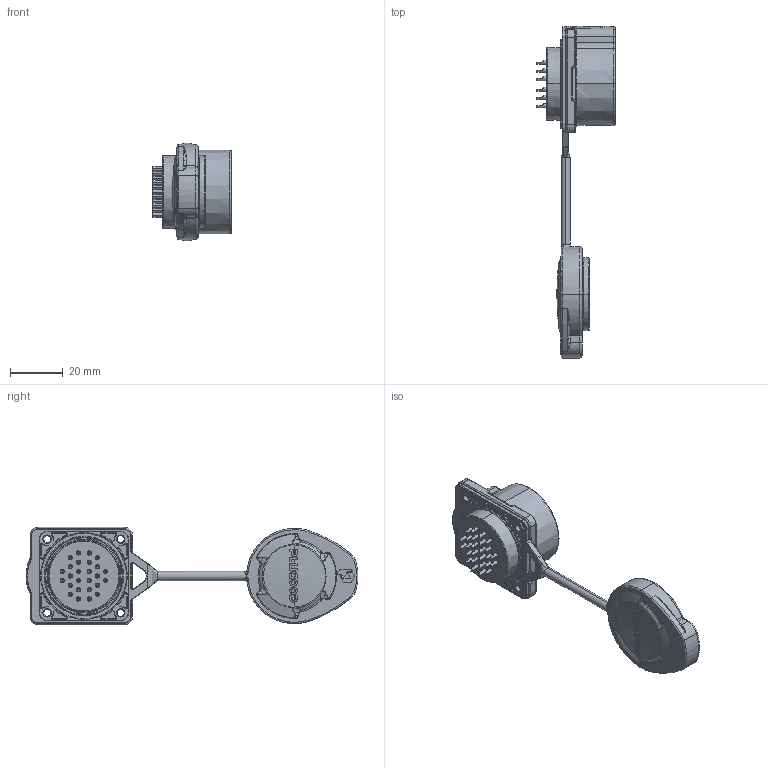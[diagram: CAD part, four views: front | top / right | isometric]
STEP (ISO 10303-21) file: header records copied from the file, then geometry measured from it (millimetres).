
FILE_DESCRIPTION (( 'STEP AP203' ), '1' );
FILE_NAME ('PLG28 26郋侐謂假蚾脣釱.STEP', '2025-10-31T10:18:45', ( '' ), ( '' ), 'SwSTEP 2.0', 'SolidWorks 2024', '' );
FILE_SCHEMA (( 'CONFIG_CONTROL_DESIGN' ));
Length unit declared in the file: millimetre
Products named in the file (1): PLG28 26芯四孔安装插座
Bounding box: 29.8 x 126.27 x 37 mm (x, y, z)
Volume: 24593 mm3; surface area: 18356.8 mm2
Topology: 8 solids, 11 shells, 2470 faces, 6472 edges, 4022 vertices
Faces by surface type: plane 776, cylinder 719, torus 392, bspline 368, cone 179, sphere 36
Entity records: 90338 total; most frequent: CARTESIAN_POINT 31694, ORIENTED_EDGE 12876, DIRECTION 11696, EDGE_CURVE 6438, AXIS2_PLACEMENT_3D 4559, VERTEX_POINT 4018, EDGE_LOOP 2620, LINE 2578
